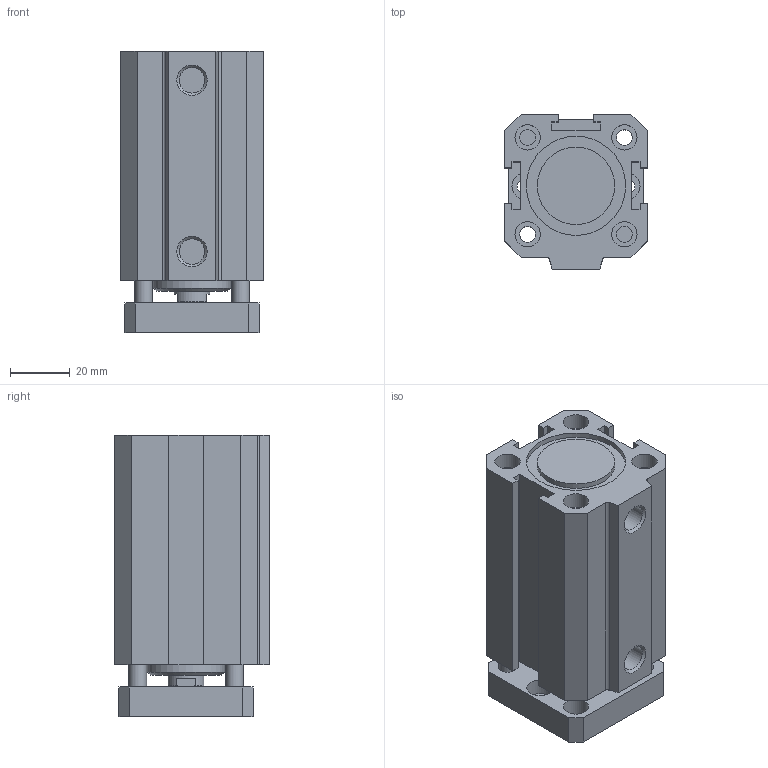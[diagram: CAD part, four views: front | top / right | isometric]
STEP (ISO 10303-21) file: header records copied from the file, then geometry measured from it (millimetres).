
FILE_DESCRIPTION(/* description */ (''),/* implementation_level */ '2;1');
FILE_NAME(/* name */ 'I:\Area Tecnica\Disegni\VARIE-3D\Componenti\1500\Ø32\15##_32_####_#\1501_32_0045_AR.stp',/* time_stamp */ '2016-08-24T11:29:00+02:00',/* author */ ('Maniean1'),/* organization */ ('Pneumax S.p.A.'),/* preprocessor_version */ 'ST-DEVELOPER v15.2',/* originating_system */ 'Autodesk Inventor 2014',/* authorisation */ '');
FILE_SCHEMA (('AUTOMOTIVE_DESIGN { 1 0 10303 214 3 1 1 }'));
Length unit declared in the file: millimetre
Products named in the file (3): C_1501_32_0045_AR; S_1501_32_0045_AR; 1501_32_0045_AR
Bounding box: 48 x 52 x 94.5 mm (x, y, z)
Volume: 141889.8 mm3; surface area: 52118.7 mm2
Topology: 2 solids, 2 shells, 113 faces, 261 edges, 174 vertices
Faces by surface type: plane 74, cylinder 34, cone 5
Full cylindrical faces by diameter (mm): 4.134 x2, 5.3 x4, 5.5 x2, 6 x4, 8.5 x8, 8.566 x2, 9 x2, 12 x2, 26 x2, 32 x2, 33.3 x2
Entity records: 3153 total; most frequent: DIRECTION 530, CARTESIAN_POINT 518, ORIENTED_EDGE 444, EDGE_CURVE 222, AXIS2_PLACEMENT_3D 194, EDGE_LOOP 190, VERTEX_POINT 170, LINE 142
